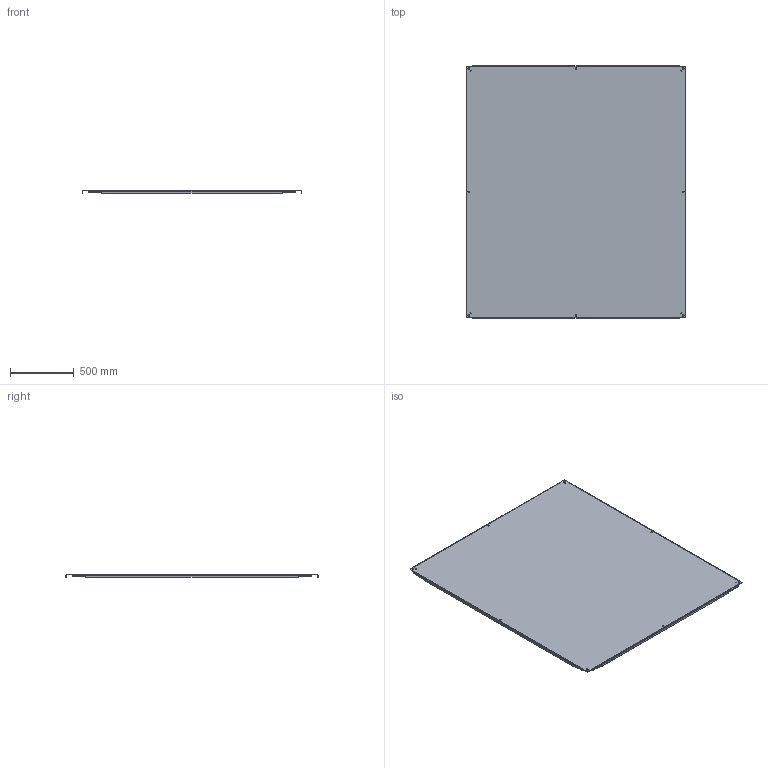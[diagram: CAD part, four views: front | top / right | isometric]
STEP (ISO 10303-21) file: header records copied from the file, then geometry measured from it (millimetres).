
FILE_DESCRIPTION((''),'2;1');
FILE_NAME('MODEL-075_ASM','2024-05-02T15:51:48',('ChadS'),('SAGINAW CONTROL & ENGINEERING'),'CREO PARAMETRIC BY PTC INC, 2021284','CREO PARAMETRIC BY PTC INC, 2021284','');
FILE_SCHEMA(('AUTOMOTIVE_DESIGN { 1 0 10303 214 1 1 1 1 }'));
Length unit declared in the file: inch
Products named in the file (3): MODEL-075-SUBPNL; 118582; MODEL-075_ASM
Assembly tree (2 placements, depth 2):
  MODEL-075_ASM
    MODEL-075-SUBPNL
    118582
Bounding box: 1725.61 x 1979.61 x 22.23 mm (x, y, z)
Volume: 11202124.9 mm3; surface area: 7081551.6 mm2
Topology: 1 solids, 1 shells, 122 faces, 328 edges, 208 vertices
Faces by surface type: cylinder 52, plane 46, bspline 24
Entity records: 7050 total; most frequent: CARTESIAN_POINT 1331, ORIENTED_EDGE 656, DIRECTION 638, PRESENTATION_STYLE_ASSIGNMENT 451, STYLED_ITEM 451, CURVE_STYLE 328, EDGE_CURVE 328, AXIS2_PLACEMENT_3D 223
